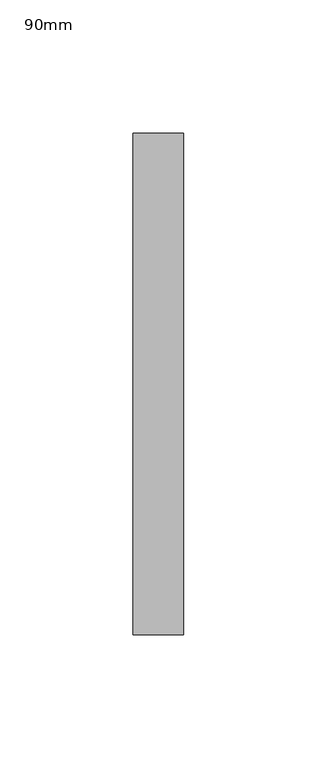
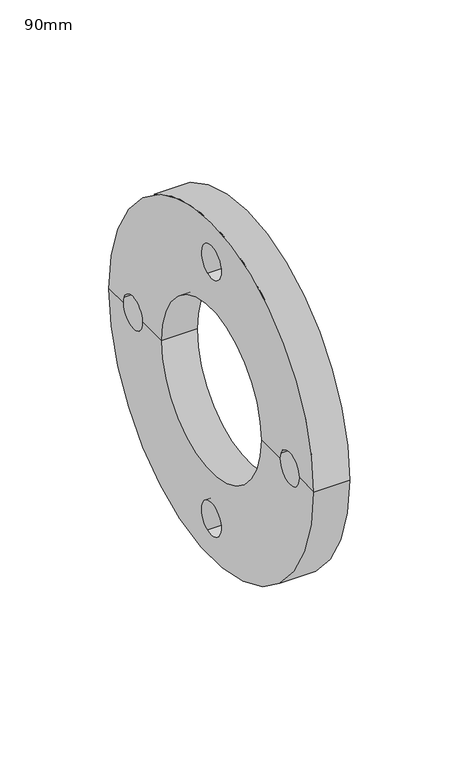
"""IFC4 building model written with IfcOpenShell, lengths in millimetres: pipe fitting geometry, Durapipe_PipeFitting_PVC_BackingFlange : 90mm."""

from ifc_helpers import new_model, si_unit, frame, origin, place, context, project, spatial, polyline, circle_curve, source, transform, mapped, element, save
from ifc_brep_helpers import plane_surface, cylinder_surface, revolved_surface, advanced_brep


def pipe_fitting_90mm_0bc7f5ea(model_context):
    return source(origin(), model_context, "Body", "AdvancedBrep", [
        advanced_brep(
        [(-9.5, 94.0, 0.0), (9.5, 94.0, 0.0), (9.5, -94.0, 0.0), (-9.5, -94.0, 0.0), (-9.5, -80.8999555, 0.0), (-9.5, -80.2136315, -3.4739336), (-9.5, -62.9000346, 0.0), (-9.5, -46.0, 0.0), (-9.5, 46.0, 0.0), (-9.5, 62.9000346, 0.0), (-9.5, 63.5863586, -3.4205422), (-9.5, 80.8999555, 0.0), (-9.5, 3.4739336, -80.2136315), (-9.5, -3.4205422, -63.5863586), (-9.5, 80.2136315, 3.4739336), (-9.5, -63.5863586, 3.4205422), (-9.5, -3.4739336, 80.2136315), (-9.5, 3.4205422, 63.5863586), (9.5, 46.0, 0.0), (9.5, -46.0, 0.0), (9.5, -62.9000346, 0.0), (9.5, -80.2136315, -3.4739336), (9.5, -80.8999555, 0.0), (9.5, 80.8999555, 0.0), (9.5, 63.5863586, -3.4205422), (9.5, 62.9000346, 0.0), (9.5, -3.4205422, -63.5863586), (9.5, 3.4739336, -80.2136315), (9.5, 80.2136315, 3.4739336), (9.5, -63.5863586, 3.4205422), (9.5, 3.4205422, 63.5863586), (9.5, -3.4739336, 80.2136315)],
        [
            (0, 1),
            (1, 2, circle_curve(frame((9.5, 0.0, 0.0), z_axis=(-1.0, 0.0, 0.0), x_axis=(0.0, 1.0, 0.0)), 94.0)),
            (2, 3),
            (3, 0, circle_curve(frame((-9.5, 0.0, 0.0), z_axis=(1.0, 0.0, 0.0), x_axis=(0.0, 1.0, 0.0)), 94.0)),
            (0, 3, circle_curve(frame((-9.5, 0.0, 0.0), z_axis=(1.0, 0.0, 0.0), x_axis=(0.0, 1.0, 0.0)), 94.0)),
            (2, 1, circle_curve(frame((9.5, 0.0, 0.0), z_axis=(-1.0, 0.0, 0.0), x_axis=(0.0, 1.0, 0.0)), 94.0)),
            (3, 4),
            (4, 5, circle_curve(frame((-9.5, -71.899995, -0.0266957), z_axis=(1.0, 0.0, 0.0), x_axis=(0.0, -0.9237373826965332, -0.38302643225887)), 9.0)),
            (5, 6, circle_curve(frame((-9.5, -71.899995, -0.0266957), z_axis=(1.0, 0.0, 0.0), x_axis=(0.0, -0.9237373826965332, -0.38302643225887)), 9.0)),
            (6, 7),
            (7, 8, circle_curve(frame((-9.5, 0.0, 0.0), z_axis=(1.0, 0.0, 0.0), x_axis=(0.0, 1.0, 0.0)), 46.0)),
            (8, 9),
            (9, 10, circle_curve(frame((-9.5, 71.899995, 0.0266957), z_axis=(1.0, 0.0, 0.0), x_axis=(0.0, 0.92373738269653, 0.3830264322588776)), 9.0)),
            (10, 11, circle_curve(frame((-9.5, 71.899995, 0.0266957), z_axis=(1.0, 0.0, 0.0), x_axis=(0.0, 0.92373738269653, 0.3830264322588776)), 9.0)),
            (11, 0),
            (12, 13, circle_curve(frame((-9.5, 0.0266957, -71.899995), z_axis=(1.0, 0.0, 0.0), x_axis=(0.0, 0.3830264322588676, -0.9237373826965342)), 9.0)),
            (13, 12, circle_curve(frame((-9.5, 0.0266957, -71.899995), z_axis=(1.0, 0.0, 0.0), x_axis=(0.0, 0.3830264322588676, -0.9237373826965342)), 9.0)),
            (11, 14, circle_curve(frame((-9.5, 71.899995, 0.0266957), z_axis=(1.0, 0.0, 0.0), x_axis=(0.0, 0.92373738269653, 0.3830264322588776)), 9.0)),
            (14, 9, circle_curve(frame((-9.5, 71.899995, 0.0266957), z_axis=(1.0, 0.0, 0.0), x_axis=(0.0, 0.92373738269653, 0.3830264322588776)), 9.0)),
            (8, 7, circle_curve(frame((-9.5, 0.0, 0.0), z_axis=(1.0, 0.0, 0.0), x_axis=(0.0, 1.0, 0.0)), 46.0)),
            (6, 15, circle_curve(frame((-9.5, -71.899995, -0.0266957), z_axis=(1.0, 0.0, 0.0), x_axis=(0.0, -0.9237373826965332, -0.38302643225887)), 9.0)),
            (15, 4, circle_curve(frame((-9.5, -71.899995, -0.0266957), z_axis=(1.0, 0.0, 0.0), x_axis=(0.0, -0.9237373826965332, -0.38302643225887)), 9.0)),
            (16, 17, circle_curve(frame((-9.5, -0.0266957, 71.899995), z_axis=(1.0, 0.0, 0.0), x_axis=(0.0, -0.3830264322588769, 0.9237373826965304)), 9.0)),
            (17, 16, circle_curve(frame((-9.5, -0.0266957, 71.899995), z_axis=(1.0, 0.0, 0.0), x_axis=(0.0, -0.3830264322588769, 0.9237373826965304)), 9.0)),
            (18, 8),
            (7, 19),
            (19, 18, circle_curve(frame((9.5, 0.0, 0.0), z_axis=(1.0, 0.0, 0.0), x_axis=(0.0, 1.0, 0.0)), 46.0)),
            (18, 19, circle_curve(frame((9.5, 0.0, 0.0), z_axis=(1.0, 0.0, 0.0), x_axis=(0.0, 1.0, 0.0)), 46.0)),
            (19, 20),
            (20, 21, circle_curve(frame((9.5, -71.899995, -0.0266957), z_axis=(-1.0, 0.0, 0.0), x_axis=(0.0, -0.9237373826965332, -0.38302643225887)), 9.0)),
            (21, 22, circle_curve(frame((9.5, -71.899995, -0.0266957), z_axis=(-1.0, 0.0, 0.0), x_axis=(0.0, -0.9237373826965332, -0.38302643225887)), 9.0)),
            (22, 2),
            (1, 23),
            (23, 24, circle_curve(frame((9.5, 71.899995, 0.0266957), z_axis=(-1.0, 0.0, 0.0), x_axis=(0.0, 0.92373738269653, 0.3830264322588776)), 9.0)),
            (24, 25, circle_curve(frame((9.5, 71.899995, 0.0266957), z_axis=(-1.0, 0.0, 0.0), x_axis=(0.0, 0.92373738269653, 0.3830264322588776)), 9.0)),
            (25, 18),
            (26, 27, circle_curve(frame((9.5, 0.0266957, -71.899995), z_axis=(-1.0, 0.0, 0.0), x_axis=(0.0, 0.3830264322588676, -0.9237373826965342)), 9.0)),
            (27, 26, circle_curve(frame((9.5, 0.0266957, -71.899995), z_axis=(-1.0, 0.0, 0.0), x_axis=(0.0, 0.3830264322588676, -0.9237373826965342)), 9.0)),
            (25, 28, circle_curve(frame((9.5, 71.899995, 0.0266957), z_axis=(-1.0, 0.0, 0.0), x_axis=(0.0, 0.92373738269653, 0.3830264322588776)), 9.0)),
            (28, 23, circle_curve(frame((9.5, 71.899995, 0.0266957), z_axis=(-1.0, 0.0, 0.0), x_axis=(0.0, 0.92373738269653, 0.3830264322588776)), 9.0)),
            (22, 29, circle_curve(frame((9.5, -71.899995, -0.0266957), z_axis=(-1.0, 0.0, 0.0), x_axis=(0.0, -0.9237373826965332, -0.38302643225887)), 9.0)),
            (29, 20, circle_curve(frame((9.5, -71.899995, -0.0266957), z_axis=(-1.0, 0.0, 0.0), x_axis=(0.0, -0.9237373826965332, -0.38302643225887)), 9.0)),
            (30, 31, circle_curve(frame((9.5, -0.0266957, 71.899995), z_axis=(-1.0, 0.0, 0.0), x_axis=(0.0, -0.3830264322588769, 0.9237373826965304)), 9.0)),
            (31, 30, circle_curve(frame((9.5, -0.0266957, 71.899995), z_axis=(-1.0, 0.0, 0.0), x_axis=(0.0, -0.3830264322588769, 0.9237373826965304)), 9.0)),
            (26, 13),
            (12, 27),
            (24, 10),
            (14, 28),
            (30, 17),
            (16, 31),
            (29, 15),
            (5, 21),
        ],
        [
            cylinder_surface(frame((-28.2738734, 0.0, 0.0), z_axis=(-1.0, 0.0, 0.0), x_axis=(0.0, 1.0, 0.0)), 94.0),
            plane_surface(frame((-9.5, 0.0, 0.0), z_axis=(-1.0, 0.0, 0.0), x_axis=(0.0, 1.0, 0.0))),
            revolved_surface(polyline([(-9.5, 46.0, 0.0), (9.5, 46.0, 0.0)]), (-28.2738734, 0.0, 0.0), (-1.0, 0.0, 0.0)),
            plane_surface(frame((9.5, 0.0, 0.0), z_axis=(1.0, 0.0, 0.0), x_axis=(0.0, 1.0, 0.0))),
            revolved_surface(polyline([(-9.500000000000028, 3.4739335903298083, -80.21363144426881), (9.499999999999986, 3.4739335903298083, -80.21363144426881)]), (40.5, 0.0266957, -71.899995), (-1.0000000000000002, 0.0, 0.0)),
            revolved_surface(polyline([(-9.5, 80.21363144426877, 3.4739335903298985), (9.5, 80.21363144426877, 3.4739335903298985)]), (40.5, 71.899995, 0.0266957), (-1.0, 0.0, 0.0)),
            revolved_surface(polyline([(-9.500000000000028, -3.473933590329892, 80.21363144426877), (9.499999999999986, -3.473933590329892, 80.21363144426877)]), (40.5, -0.0266957, 71.899995), (-1.0000000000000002, 0.0, 0.0)),
            revolved_surface(polyline([(-9.5, -80.2136314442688, -3.47393359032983), (9.5, -80.2136314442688, -3.47393359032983)]), (40.5, -71.899995, -0.0266957), (-1.0, 0.0, 0.0)),
        ],
        [
            (0, [[1, 2, 3, 4]]),
            (0, [[-1, 5, -3, 6]]),
            (1, [[-4, 7, 8, 9, 10, 11, 12, 13, 14, 15], [16, 17]]),
            (1, [[-5, -15, 18, 19, -12, 20, -10, 21, 22, -7], [23, 24]]),
            (2, [[25, -11, 26, 27]]),
            (2, [[-25, 28, -26, -20]]),
            (3, [[-27, 29, 30, 31, 32, -2, 33, 34, 35, 36], [37, 38]]),
            (3, [[-28, -36, 39, 40, -33, -6, -32, 41, 42, -29], [43, 44]]),
            (4, [[45, -16, 46, -37]]),
            (4, [[-45, -38, -46, -17]]),
            (5, [[47, -13, -19, 48, -39, -35]]),
            (5, [[-47, -34, -40, -48, -18, -14]]),
            (6, [[49, -23, 50, -43]]),
            (6, [[-49, -44, -50, -24]]),
            (7, [[51, -21, -9, 52, -30, -42]]),
            (7, [[-51, -41, -31, -52, -8, -22]]),
        ],
    ),
    ])


if __name__ == "__main__":
    model = new_model("IFC4")
    model_context = context("Model", 3, world=origin())
    ifc_project = project(units=[si_unit("LENGTHUNIT", "METRE", prefix="MILLI")], contexts=[model_context])
    site = spatial("IfcSite", under=ifc_project)
    building = spatial("IfcBuilding", under=site)
    placement = place(None, origin())
    pipe_fitting_90mm_shape = pipe_fitting_90mm_0bc7f5ea(model_context)
    element("IfcPipeFitting", 1, ObjectType="Durapipe_PipeFitting_PVC_BackingFlange : 90mm", at=placement, inside=building, context=model_context, shape_type="MappedRepresentation", body=[
        mapped(pipe_fitting_90mm_shape, transform((0.0, 0.0, 0.0), x_axis=(1.0, 0.0, 0.0), y_axis=(0.0, 1.0, 0.0), z_axis=(0.0, 0.0, 1.0))),
    ])
    save(model, "model.ifc")
